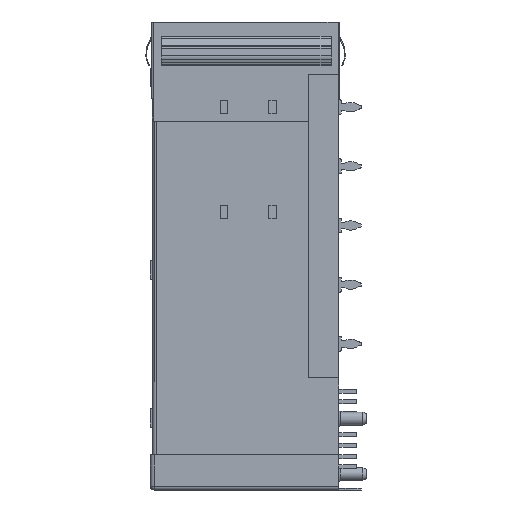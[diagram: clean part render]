
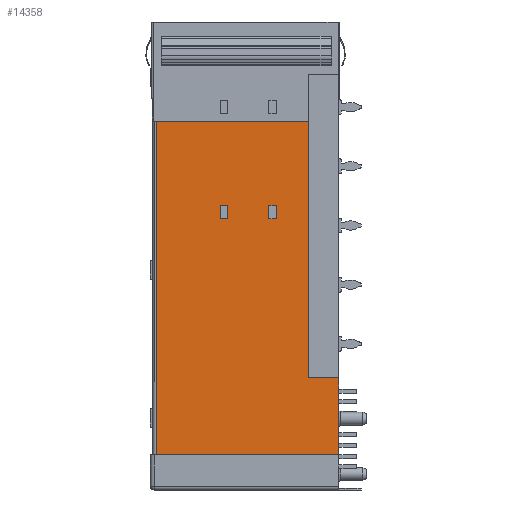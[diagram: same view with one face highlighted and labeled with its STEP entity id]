
A CAD part, left-side view. The second image highlights one B-rep face of the part: STEP entity #14358.
In plain terms, the highlighted planar face has unit normal (-1, 0, 0).
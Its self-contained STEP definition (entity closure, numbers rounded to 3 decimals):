
#885 = LINE ( 'NONE', #32251, #45787 ) ;
#1433 = ORIENTED_EDGE ( 'NONE', *, *, #44343, .T. ) ;
#1551 = EDGE_CURVE ( 'NONE', #15681, #67349, #2302, .T. ) ;
#2131 = ORIENTED_EDGE ( 'NONE', *, *, #9376, .T. ) ;
#2302 = LINE ( 'NONE', #61356, #62845 ) ;
#2375 = DIRECTION ( 'NONE',  ( 0., -1., 0. ) ) ;
#2435 = CARTESIAN_POINT ( 'NONE',  ( -28.625, 8.45, -26.6 ) ) ;
#2581 = ORIENTED_EDGE ( 'NONE', *, *, #13325, .F. ) ;
#2699 = EDGE_CURVE ( 'NONE', #47739, #20124, #24146, .T. ) ;
#3018 = DIRECTION ( 'NONE',  ( 0., 0., 1. ) ) ;
#3402 = EDGE_CURVE ( 'NONE', #56921, #8312, #55111, .T. ) ;
#3561 = DIRECTION ( 'NONE',  ( 0., 0., 1. ) ) ;
#6182 = VERTEX_POINT ( 'NONE', #14520 ) ;
#6635 = CARTESIAN_POINT ( 'NONE',  ( -28.625, 24.7, -13.4 ) ) ;
#7677 = DIRECTION ( 'NONE',  ( 0., -1., 0. ) ) ;
#8176 = EDGE_CURVE ( 'NONE', #6182, #28732, #47601, .T. ) ;
#8191 = DIRECTION ( 'NONE',  ( 0., 0., -1. ) ) ;
#8312 = VERTEX_POINT ( 'NONE', #2435 ) ;
#8540 = CARTESIAN_POINT ( 'NONE',  ( -28.625, 24.7, -58.5 ) ) ;
#8850 = DIRECTION ( 'NONE',  ( 0., 1., 0. ) ) ;
#9164 = ORIENTED_EDGE ( 'NONE', *, *, #65657, .T. ) ;
#9376 = EDGE_CURVE ( 'NONE', #46306, #37147, #60644, .T. ) ;
#9849 = FACE_BOUND ( 'NONE', #21041, .T. ) ;
#9876 = DIRECTION ( 'NONE',  ( 0., 1., 0. ) ) ;
#10703 = ORIENTED_EDGE ( 'NONE', *, *, #29358, .T. ) ;
#10765 = CARTESIAN_POINT ( 'NONE',  ( -28.625, 15., -24.8 ) ) ;
#12324 = VECTOR ( 'NONE', #2375, 1000. ) ;
#13325 = EDGE_CURVE ( 'NONE', #47739, #67349, #34595, .T. ) ;
#13404 = CARTESIAN_POINT ( 'NONE',  ( -28.625, 24.7, -63.25 ) ) ;
#14358 = ADVANCED_FACE ( 'NONE', ( #9849, #44194, #46628 ), #38703, .T. ) ;
#14520 = CARTESIAN_POINT ( 'NONE',  ( -28.625, 0., -58.5 ) ) ;
#14740 = VECTOR ( 'NONE', #32201, 1000. ) ;
#14742 = EDGE_LOOP ( 'NONE', ( #2131, #32710, #37378, #22119 ) ) ;
#15016 = EDGE_CURVE ( 'NONE', #31289, #46306, #29416, .T. ) ;
#15173 = ORIENTED_EDGE ( 'NONE', *, *, #3402, .T. ) ;
#15681 = VERTEX_POINT ( 'NONE', #25036 ) ;
#16669 = ORIENTED_EDGE ( 'NONE', *, *, #46895, .T. ) ;
#17403 = CARTESIAN_POINT ( 'NONE',  ( -28.625, 16., -24.8 ) ) ;
#17694 = DIRECTION ( 'NONE',  ( 0., 0., 1. ) ) ;
#20124 = VERTEX_POINT ( 'NONE', #8540 ) ;
#20935 = DIRECTION ( 'NONE',  ( 0., -1., 0. ) ) ;
#21041 = EDGE_LOOP ( 'NONE', ( #16669, #15173, #63873, #10703 ) ) ;
#21182 = VECTOR ( 'NONE', #59899, 1000. ) ;
#21807 = CARTESIAN_POINT ( 'NONE',  ( -28.625, 4.1, -13.4 ) ) ;
#22119 = ORIENTED_EDGE ( 'NONE', *, *, #15016, .T. ) ;
#23230 = VERTEX_POINT ( 'NONE', #28318 ) ;
#24146 = LINE ( 'NONE', #13404, #67572 ) ;
#25036 = CARTESIAN_POINT ( 'NONE',  ( -28.625, 4.1, -48.1 ) ) ;
#25585 = ORIENTED_EDGE ( 'NONE', *, *, #2699, .T. ) ;
#25614 = VECTOR ( 'NONE', #8850, 1000. ) ;
#26845 = VERTEX_POINT ( 'NONE', #56635 ) ;
#28278 = VECTOR ( 'NONE', #35068, 1000. ) ;
#28318 = CARTESIAN_POINT ( 'NONE',  ( -28.625, 15., -26.6 ) ) ;
#28569 = CARTESIAN_POINT ( 'NONE',  ( -28.625, 9.45, -24.8 ) ) ;
#28732 = VERTEX_POINT ( 'NONE', #33902 ) ;
#29358 = EDGE_CURVE ( 'NONE', #26845, #42687, #47483, .T. ) ;
#29416 = LINE ( 'NONE', #58757, #21182 ) ;
#31027 = DIRECTION ( 'NONE',  ( 0., 0., -1. ) ) ;
#31289 = VERTEX_POINT ( 'NONE', #41004 ) ;
#32201 = DIRECTION ( 'NONE',  ( 0., 0., -1. ) ) ;
#32251 = CARTESIAN_POINT ( 'NONE',  ( -28.625, 0., -48.1 ) ) ;
#32710 = ORIENTED_EDGE ( 'NONE', *, *, #49884, .T. ) ;
#33035 = CARTESIAN_POINT ( 'NONE',  ( -28.625, 0., -63.25 ) ) ;
#33222 = CARTESIAN_POINT ( 'NONE',  ( -28.625, 0., -63.25 ) ) ;
#33447 = DIRECTION ( 'NONE',  ( -1., 0., 0. ) ) ;
#33624 = ORIENTED_EDGE ( 'NONE', *, *, #8176, .T. ) ;
#33902 = CARTESIAN_POINT ( 'NONE',  ( -28.625, 0., -48.1 ) ) ;
#33935 = CARTESIAN_POINT ( 'NONE',  ( -28.625, 25.2, -58.5 ) ) ;
#34595 = LINE ( 'NONE', #36712, #38697 ) ;
#34898 = EDGE_CURVE ( 'NONE', #23230, #31289, #46695, .T. ) ;
#35068 = DIRECTION ( 'NONE',  ( 0., -1., 0. ) ) ;
#36252 = CARTESIAN_POINT ( 'NONE',  ( -28.625, 16., -24.8 ) ) ;
#36712 = CARTESIAN_POINT ( 'NONE',  ( -28.625, 25.2, -13.4 ) ) ;
#37147 = VERTEX_POINT ( 'NONE', #10765 ) ;
#37378 = ORIENTED_EDGE ( 'NONE', *, *, #34898, .T. ) ;
#37705 = VECTOR ( 'NONE', #9876, 1000. ) ;
#38697 = VECTOR ( 'NONE', #20935, 1000. ) ;
#38703 = PLANE ( 'NONE',  #46002 ) ;
#38930 = LINE ( 'NONE', #33935, #65177 ) ;
#40129 = VECTOR ( 'NONE', #3018, 1000. ) ;
#40258 = EDGE_LOOP ( 'NONE', ( #2581, #25585, #9164, #33624, #1433, #50997 ) ) ;
#40746 = CARTESIAN_POINT ( 'NONE',  ( -28.625, 9.45, -24.8 ) ) ;
#41004 = CARTESIAN_POINT ( 'NONE',  ( -28.625, 16., -26.6 ) ) ;
#41180 = CARTESIAN_POINT ( 'NONE',  ( -28.625, 16., -26.6 ) ) ;
#42687 = VERTEX_POINT ( 'NONE', #63379 ) ;
#44194 = FACE_BOUND ( 'NONE', #14742, .T. ) ;
#44343 = EDGE_CURVE ( 'NONE', #28732, #15681, #885, .T. ) ;
#44939 = CARTESIAN_POINT ( 'NONE',  ( -28.625, 9.45, -26.6 ) ) ;
#45787 = VECTOR ( 'NONE', #53275, 1000. ) ;
#46002 = AXIS2_PLACEMENT_3D ( 'NONE', #33222, #33447, #48980 ) ;
#46306 = VERTEX_POINT ( 'NONE', #36252 ) ;
#46628 = FACE_OUTER_BOUND ( 'NONE', #40258, .T. ) ;
#46695 = LINE ( 'NONE', #41180, #37705 ) ;
#46895 = EDGE_CURVE ( 'NONE', #42687, #56921, #62678, .T. ) ;
#47483 = LINE ( 'NONE', #28569, #40129 ) ;
#47601 = LINE ( 'NONE', #33035, #67275 ) ;
#47739 = VERTEX_POINT ( 'NONE', #6635 ) ;
#48980 = DIRECTION ( 'NONE',  ( 0., 0., 1. ) ) ;
#49473 = CARTESIAN_POINT ( 'NONE',  ( -28.625, 8.45, -24.8 ) ) ;
#49884 = EDGE_CURVE ( 'NONE', #37147, #23230, #63091, .T. ) ;
#50997 = ORIENTED_EDGE ( 'NONE', *, *, #1551, .T. ) ;
#52990 = EDGE_CURVE ( 'NONE', #8312, #26845, #56725, .T. ) ;
#53275 = DIRECTION ( 'NONE',  ( 0., 1., 0. ) ) ;
#53461 = VECTOR ( 'NONE', #31027, 1000. ) ;
#55111 = LINE ( 'NONE', #56642, #53461 ) ;
#56635 = CARTESIAN_POINT ( 'NONE',  ( -28.625, 9.45, -26.6 ) ) ;
#56642 = CARTESIAN_POINT ( 'NONE',  ( -28.625, 8.45, -24.8 ) ) ;
#56725 = LINE ( 'NONE', #44939, #25614 ) ;
#56921 = VERTEX_POINT ( 'NONE', #49473 ) ;
#58485 = CARTESIAN_POINT ( 'NONE',  ( -28.625, 15., -24.8 ) ) ;
#58757 = CARTESIAN_POINT ( 'NONE',  ( -28.625, 16., -24.8 ) ) ;
#59899 = DIRECTION ( 'NONE',  ( 0., 0., 1. ) ) ;
#60644 = LINE ( 'NONE', #17403, #12324 ) ;
#61356 = CARTESIAN_POINT ( 'NONE',  ( -28.625, 4.1, -7.1 ) ) ;
#62678 = LINE ( 'NONE', #40746, #28278 ) ;
#62845 = VECTOR ( 'NONE', #3561, 1000. ) ;
#63091 = LINE ( 'NONE', #58485, #14740 ) ;
#63379 = CARTESIAN_POINT ( 'NONE',  ( -28.625, 9.45, -24.8 ) ) ;
#63873 = ORIENTED_EDGE ( 'NONE', *, *, #52990, .T. ) ;
#65177 = VECTOR ( 'NONE', #7677, 1000. ) ;
#65657 = EDGE_CURVE ( 'NONE', #20124, #6182, #38930, .T. ) ;
#67275 = VECTOR ( 'NONE', #17694, 1000. ) ;
#67349 = VERTEX_POINT ( 'NONE', #21807 ) ;
#67572 = VECTOR ( 'NONE', #8191, 1000. ) ;
